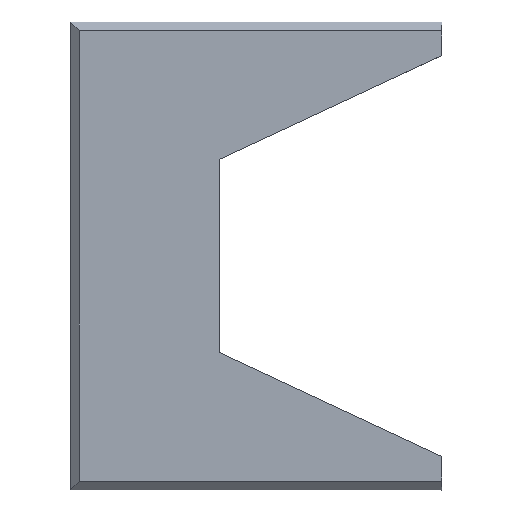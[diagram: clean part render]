
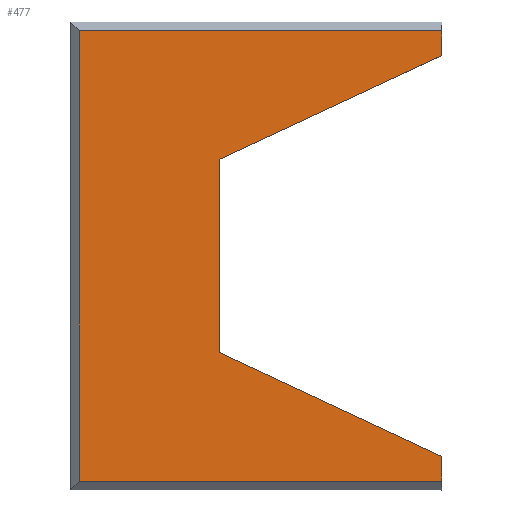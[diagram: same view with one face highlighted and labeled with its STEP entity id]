
A CAD part, top view. The second image highlights one B-rep face of the part: STEP entity #477.
In plain terms, the highlighted planar face has unit normal (0.012, 0, 1).
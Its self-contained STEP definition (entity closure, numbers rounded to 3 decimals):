
#3 = ORIENTED_EDGE ( 'NONE', *, *, #106, .T. ) ;
#14 = LINE ( 'NONE', #301, #259 ) ;
#20 = ORIENTED_EDGE ( 'NONE', *, *, #520, .T. ) ;
#21 = LINE ( 'NONE', #375, #317 ) ;
#31 = VERTEX_POINT ( 'NONE', #402 ) ;
#34 = VERTEX_POINT ( 'NONE', #207 ) ;
#54 = ORIENTED_EDGE ( 'NONE', *, *, #197, .T. ) ;
#64 = VECTOR ( 'NONE', #125, 1000. ) ;
#66 = DIRECTION ( 'NONE',  ( 0., 1., 0. ) ) ;
#73 = VERTEX_POINT ( 'NONE', #449 ) ;
#83 = ORIENTED_EDGE ( 'NONE', *, *, #172, .T. ) ;
#103 = CARTESIAN_POINT ( 'NONE',  ( -233.657, 0.09, -412.395 ) ) ;
#106 = EDGE_CURVE ( 'NONE', #31, #340, #280, .T. ) ;
#109 = VERTEX_POINT ( 'NONE', #282 ) ;
#111 = ORIENTED_EDGE ( 'NONE', *, *, #347, .T. ) ;
#122 = CARTESIAN_POINT ( 'NONE',  ( -331.27, 0.09, -411.2 ) ) ;
#125 = DIRECTION ( 'NONE',  ( -0.906, 0.423, 0.011 ) ) ;
#130 = LINE ( 'NONE', #122, #235 ) ;
#134 = DIRECTION ( 'NONE',  ( 1., 0., -0.012 ) ) ;
#148 = VERTEX_POINT ( 'NONE', #509 ) ;
#160 = CARTESIAN_POINT ( 'NONE',  ( -233.657, 32.774, -412.388 ) ) ;
#163 = CARTESIAN_POINT ( 'NONE',  ( -233.719, 0.09, -412.395 ) ) ;
#172 = EDGE_CURVE ( 'NONE', #340, #109, #21, .T. ) ;
#173 = LINE ( 'NONE', #103, #428 ) ;
#180 = EDGE_LOOP ( 'NONE', ( #183, #200, #54, #226, #3, #83, #111, #20 ) ) ;
#183 = ORIENTED_EDGE ( 'NONE', *, *, #410, .T. ) ;
#197 = EDGE_CURVE ( 'NONE', #148, #478, #14, .T. ) ;
#200 = ORIENTED_EDGE ( 'NONE', *, *, #510, .T. ) ;
#204 = DIRECTION ( 'NONE',  ( 0., -1., 0. ) ) ;
#207 = CARTESIAN_POINT ( 'NONE',  ( -233.719, 147.343, -412.363 ) ) ;
#208 = FACE_OUTER_BOUND ( 'NONE', #180, .T. ) ;
#223 = EDGE_CURVE ( 'NONE', #478, #31, #173, .T. ) ;
#226 = ORIENTED_EDGE ( 'NONE', *, *, #223, .T. ) ;
#235 = VECTOR ( 'NONE', #204, 1000. ) ;
#250 = AXIS2_PLACEMENT_3D ( 'NONE', #403, #366, #442 ) ;
#259 = VECTOR ( 'NONE', #134, 1000. ) ;
#265 = CARTESIAN_POINT ( 'NONE',  ( -293.656, 67.392, -411.646 ) ) ;
#275 = LINE ( 'NONE', #429, #492 ) ;
#279 = PLANE ( 'NONE',  #250 ) ;
#280 = LINE ( 'NONE', #486, #64 ) ;
#281 = LINE ( 'NONE', #163, #364 ) ;
#282 = CARTESIAN_POINT ( 'NONE',  ( -293.656, 119.392, -411.635 ) ) ;
#297 = VECTOR ( 'NONE', #387, 1000. ) ;
#301 = CARTESIAN_POINT ( 'NONE',  ( -5.085, 32.774, -415.188 ) ) ;
#316 = CARTESIAN_POINT ( 'NONE',  ( -5.085, 154.011, -415.161 ) ) ;
#317 = VECTOR ( 'NONE', #66, 1000. ) ;
#340 = VERTEX_POINT ( 'NONE', #265 ) ;
#343 = VERTEX_POINT ( 'NONE', #469 ) ;
#345 = DIRECTION ( 'NONE',  ( 0., 1., 0. ) ) ;
#347 = EDGE_CURVE ( 'NONE', #109, #34, #275, .T. ) ;
#364 = VECTOR ( 'NONE', #398, 1000. ) ;
#366 = DIRECTION ( 'NONE',  ( -0.012, 0., -1. ) ) ;
#375 = CARTESIAN_POINT ( 'NONE',  ( -293.656, 0.09, -411.661 ) ) ;
#387 = DIRECTION ( 'NONE',  ( -1., 0., 0.012 ) ) ;
#398 = DIRECTION ( 'NONE',  ( 0., 1., 0. ) ) ;
#402 = CARTESIAN_POINT ( 'NONE',  ( -233.657, 39.412, -412.387 ) ) ;
#403 = CARTESIAN_POINT ( 'NONE',  ( -5.085, 0.091, -415.195 ) ) ;
#410 = EDGE_CURVE ( 'NONE', #73, #343, #517, .T. ) ;
#428 = VECTOR ( 'NONE', #345, 1000. ) ;
#429 = CARTESIAN_POINT ( 'NONE',  ( -103.466, 208.086, -413.944 ) ) ;
#442 = DIRECTION ( 'NONE',  ( -1., 0., 0.012 ) ) ;
#449 = CARTESIAN_POINT ( 'NONE',  ( -233.719, 154.011, -412.361 ) ) ;
#469 = CARTESIAN_POINT ( 'NONE',  ( -331.27, 154.01, -411.166 ) ) ;
#471 = DIRECTION ( 'NONE',  ( 0.906, 0.423, -0.011 ) ) ;
#477 = ADVANCED_FACE ( 'NONE', ( #208 ), #279, .F. ) ;
#478 = VERTEX_POINT ( 'NONE', #160 ) ;
#486 = CARTESIAN_POINT ( 'NONE',  ( -31.998, -54.63, -414.877 ) ) ;
#492 = VECTOR ( 'NONE', #471, 1000. ) ;
#509 = CARTESIAN_POINT ( 'NONE',  ( -331.27, 32.773, -411.193 ) ) ;
#510 = EDGE_CURVE ( 'NONE', #343, #148, #130, .T. ) ;
#517 = LINE ( 'NONE', #316, #297 ) ;
#520 = EDGE_CURVE ( 'NONE', #34, #73, #281, .T. ) ;
